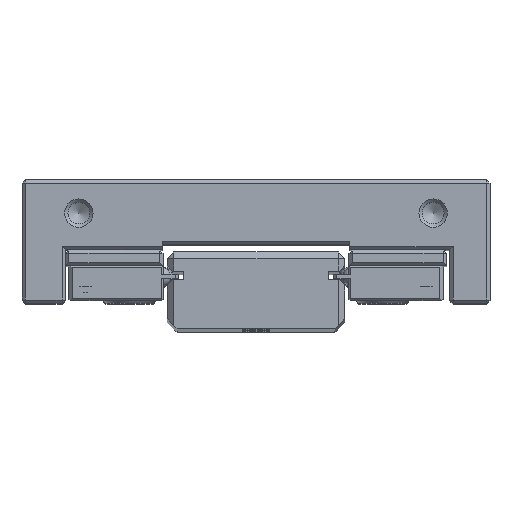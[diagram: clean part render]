
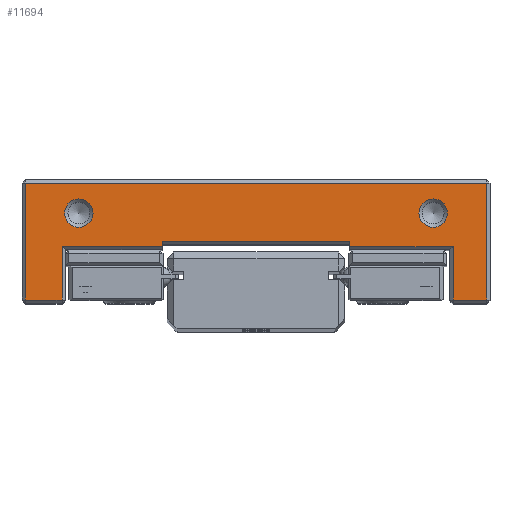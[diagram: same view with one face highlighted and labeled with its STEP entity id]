
A CAD part, top view. The second image highlights one B-rep face of the part: STEP entity #11694.
In plain terms, the highlighted planar face has unit normal (0, 0, 1).
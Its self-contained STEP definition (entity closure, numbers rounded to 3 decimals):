
#323=FACE_BOUND('',#1845,.T.);
#324=FACE_BOUND('',#1846,.T.);
#591=PLANE('',#12544);
#1151=FACE_OUTER_BOUND('',#1844,.T.);
#1844=EDGE_LOOP('',(#8578,#8579,#8580,#8581,#8582,#8583,#8584,#8585,#8586,
#8587,#8588,#8589));
#1845=EDGE_LOOP('',(#8590));
#1846=EDGE_LOOP('',(#8591));
#2744=LINE('',#18007,#3768);
#2745=LINE('',#18010,#3769);
#2752=LINE('',#18024,#3776);
#2759=LINE('',#18037,#3783);
#2773=LINE('',#18067,#3797);
#2780=LINE('',#18101,#3804);
#2781=LINE('',#18103,#3805);
#2782=LINE('',#18105,#3806);
#2783=LINE('',#18107,#3807);
#2784=LINE('',#18109,#3808);
#2785=LINE('',#18111,#3809);
#2786=LINE('',#18112,#3810);
#3768=VECTOR('',#14148,10.);
#3769=VECTOR('',#14151,10.);
#3776=VECTOR('',#14160,10.);
#3783=VECTOR('',#14169,10.);
#3797=VECTOR('',#14195,10.);
#3804=VECTOR('',#14236,10.);
#3805=VECTOR('',#14237,10.);
#3806=VECTOR('',#14238,10.);
#3807=VECTOR('',#14239,10.);
#3808=VECTOR('',#14240,10.);
#3809=VECTOR('',#14241,10.);
#3810=VECTOR('',#14242,10.);
#4548=CIRCLE('',#12542,2.121);
#4550=CIRCLE('',#12545,2.121);
#5205=VERTEX_POINT('',#18003);
#5206=VERTEX_POINT('',#18005);
#5207=VERTEX_POINT('',#18009);
#5212=VERTEX_POINT('',#18021);
#5213=VERTEX_POINT('',#18023);
#5218=VERTEX_POINT('',#18035);
#5237=VERTEX_POINT('',#18095);
#5238=VERTEX_POINT('',#18100);
#5239=VERTEX_POINT('',#18102);
#5240=VERTEX_POINT('',#18104);
#5241=VERTEX_POINT('',#18106);
#5242=VERTEX_POINT('',#18108);
#5243=VERTEX_POINT('',#18110);
#5244=VERTEX_POINT('',#18113);
#6454=EDGE_CURVE('',#5206,#5205,#2744,.T.);
#6455=EDGE_CURVE('',#5207,#5205,#2745,.T.);
#6462=EDGE_CURVE('',#5212,#5213,#2752,.T.);
#6469=EDGE_CURVE('',#5212,#5218,#2759,.T.);
#6485=EDGE_CURVE('',#5207,#5218,#2773,.T.);
#6499=EDGE_CURVE('',#5237,#5237,#4548,.T.);
#6501=EDGE_CURVE('',#5238,#5206,#2780,.T.);
#6502=EDGE_CURVE('',#5239,#5238,#2781,.T.);
#6503=EDGE_CURVE('',#5240,#5239,#2782,.T.);
#6504=EDGE_CURVE('',#5241,#5240,#2783,.T.);
#6505=EDGE_CURVE('',#5242,#5241,#2784,.T.);
#6506=EDGE_CURVE('',#5243,#5242,#2785,.T.);
#6507=EDGE_CURVE('',#5213,#5243,#2786,.T.);
#6508=EDGE_CURVE('',#5244,#5244,#4550,.T.);
#8578=ORIENTED_EDGE('',*,*,#6501,.F.);
#8579=ORIENTED_EDGE('',*,*,#6502,.F.);
#8580=ORIENTED_EDGE('',*,*,#6503,.F.);
#8581=ORIENTED_EDGE('',*,*,#6504,.F.);
#8582=ORIENTED_EDGE('',*,*,#6505,.F.);
#8583=ORIENTED_EDGE('',*,*,#6506,.F.);
#8584=ORIENTED_EDGE('',*,*,#6507,.F.);
#8585=ORIENTED_EDGE('',*,*,#6462,.F.);
#8586=ORIENTED_EDGE('',*,*,#6469,.T.);
#8587=ORIENTED_EDGE('',*,*,#6485,.F.);
#8588=ORIENTED_EDGE('',*,*,#6455,.T.);
#8589=ORIENTED_EDGE('',*,*,#6454,.F.);
#8590=ORIENTED_EDGE('',*,*,#6508,.F.);
#8591=ORIENTED_EDGE('',*,*,#6499,.F.);
#11694=ADVANCED_FACE('',(#1151,#323,#324),#591,.T.);
#12542=AXIS2_PLACEMENT_3D('',#18097,#14230,#14231);
#12544=AXIS2_PLACEMENT_3D('',#18099,#14234,#14235);
#12545=AXIS2_PLACEMENT_3D('',#18114,#14243,#14244);
#14148=DIRECTION('',(-1.,0.,0.));
#14151=DIRECTION('',(0.,-1.,0.));
#14160=DIRECTION('',(-1.,0.,0.));
#14169=DIRECTION('',(0.,1.,0.));
#14195=DIRECTION('',(-1.,0.,0.));
#14230=DIRECTION('center_axis',(0.,0.,
1.));
#14231=DIRECTION('ref_axis',(-1.,0.,0.));
#14234=DIRECTION('center_axis',(0.,0.,
1.));
#14235=DIRECTION('ref_axis',(-1.,0.,0.));
#14236=DIRECTION('',(0.,1.,0.));
#14237=DIRECTION('',(-1.,0.,0.));
#14238=DIRECTION('',(0.,-1.,0.));
#14239=DIRECTION('',(1.,0.,0.));
#14240=DIRECTION('',(0.,1.,0.));
#14241=DIRECTION('',(-1.,0.,0.));
#14242=DIRECTION('',(0.,-1.,0.));
#14243=DIRECTION('center_axis',(0.,0.,
1.));
#14244=DIRECTION('ref_axis',(-1.,0.,0.));
#18003=CARTESIAN_POINT('',(14.,6.75,-10.));
#18005=CARTESIAN_POINT('',(29.5,6.75,-10.));
#18007=CARTESIAN_POINT('',(14.5,6.75,-10.));
#18009=CARTESIAN_POINT('',(14.,7.55,-10.));
#18010=CARTESIAN_POINT('',(14.,7.05,-10.));
#18021=CARTESIAN_POINT('',(-14.,6.75,-10.));
#18023=CARTESIAN_POINT('',(-29.,6.75,-10.));
#18024=CARTESIAN_POINT('',(-7.,6.75,-10.));
#18035=CARTESIAN_POINT('',(-14.,7.55,-10.));
#18037=CARTESIAN_POINT('',(-14.,6.25,-10.));
#18067=CARTESIAN_POINT('',(7.,7.55,-10.));
#18095=CARTESIAN_POINT('',(-24.379,11.75,-10.));
#18097=CARTESIAN_POINT('Origin',(-26.5,11.75,-10.));
#18099=CARTESIAN_POINT('Origin',(0.,7.5,-10.));
#18100=CARTESIAN_POINT('',(29.5,-1.25,-10.));
#18101=CARTESIAN_POINT('',(29.5,2.875,-10.));
#18102=CARTESIAN_POINT('',(34.5,-1.25,-10.));
#18103=CARTESIAN_POINT('',(17.5,-1.25,-10.));
#18104=CARTESIAN_POINT('',(34.5,16.25,-10.));
#18105=CARTESIAN_POINT('',(34.5,12.125,-10.));
#18106=CARTESIAN_POINT('',(-34.5,16.25,-10.));
#18107=CARTESIAN_POINT('',(-17.5,16.25,-10.));
#18108=CARTESIAN_POINT('',(-34.5,-1.25,-10.));
#18109=CARTESIAN_POINT('',(-34.5,2.875,-10.));
#18110=CARTESIAN_POINT('',(-29.,-1.25,-10.));
#18111=CARTESIAN_POINT('',(-14.25,-1.25,-10.));
#18112=CARTESIAN_POINT('',(-29.,6.875,-10.));
#18113=CARTESIAN_POINT('',(28.621,11.75,-10.));
#18114=CARTESIAN_POINT('Origin',(26.5,11.75,-10.));
